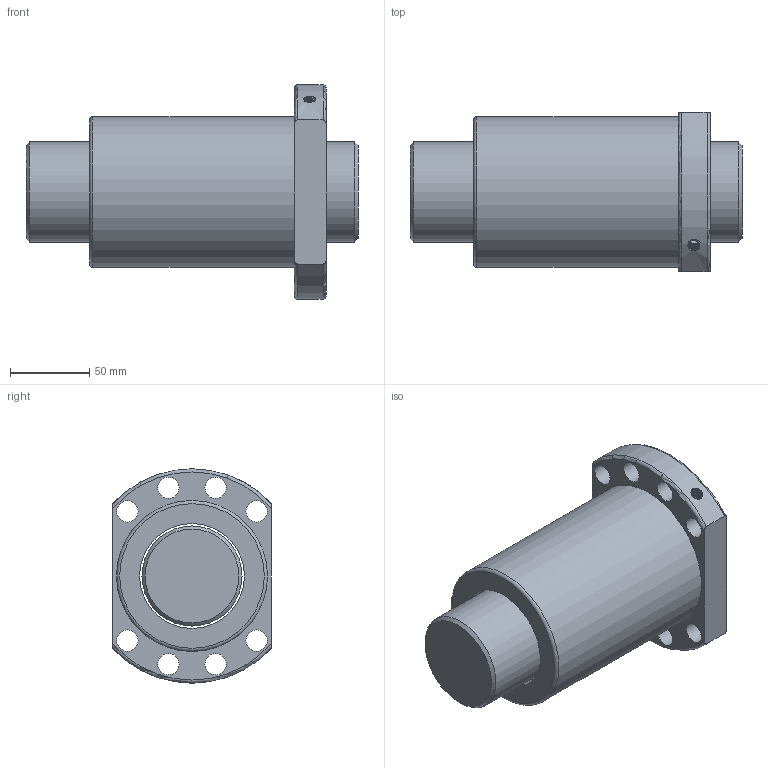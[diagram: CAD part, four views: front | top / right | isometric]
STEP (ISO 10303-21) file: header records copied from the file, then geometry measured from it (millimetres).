
FILE_DESCRIPTION (( 'STEP AP203' ), '1' );
FILE_NAME ('SFNU06320-4.STEP', '2023-08-16T03:52:28', ( '' ), ( '' ), 'SwSTEP 2.0', 'SolidWorks 2022', '' );
FILE_SCHEMA (( 'CONFIG_CONTROL_DESIGN' ));
Length unit declared in the file: millimetre
Products named in the file (1): SFNU06320-4
Bounding box: 209 x 100 x 135 mm (x, y, z)
Volume: 1270020 mm3; surface area: 150349.6 mm2
Topology: 2 solids, 2 shells, 40 faces, 92 edges, 60 vertices
Faces by surface type: cylinder 19, plane 11, torus 5, cone 3, bspline 2
Full cylindrical faces by diameter (mm): 4 x1, 13.5 x8, 63 x1, 66 x2, 82 x2, 95 x1
Entity records: 2980 total; most frequent: CARTESIAN_POINT 2058, DIRECTION 172, ORIENTED_EDGE 140, EDGE_LOOP 83, AXIS2_PLACEMENT_3D 82, EDGE_CURVE 70, VERTEX_POINT 57, FACE_OUTER_BOUND 56
